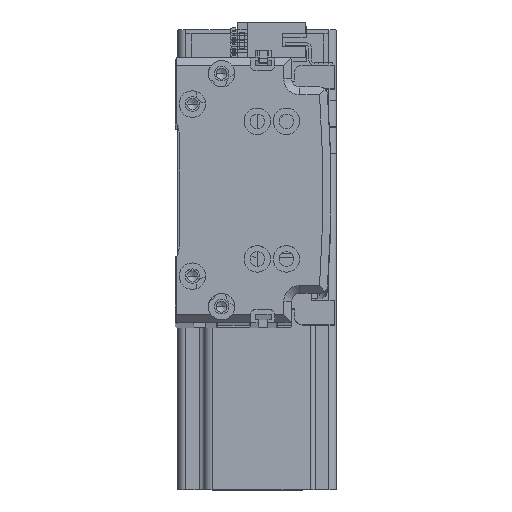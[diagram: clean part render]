
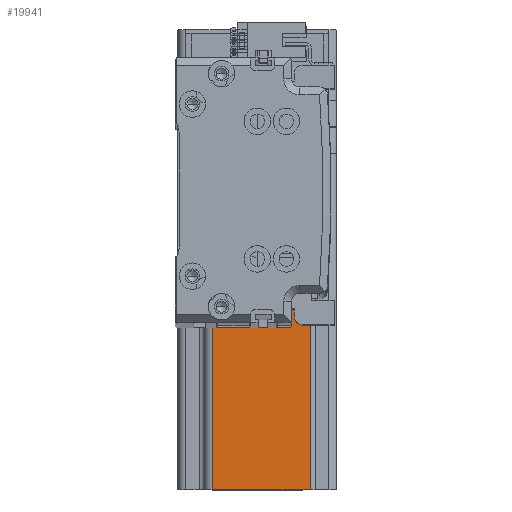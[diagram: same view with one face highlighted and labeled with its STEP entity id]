
A CAD part, top view. The second image highlights one B-rep face of the part: STEP entity #19941.
In plain terms, the highlighted planar face has unit normal (0, 0, 1) as drawn and (-1, 0, 0) by its records, which use the part's own axes.
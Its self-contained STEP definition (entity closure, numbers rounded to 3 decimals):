
#837 = EDGE_CURVE ( 'NONE', #23259, #19442, #915, .T. ) ;
#915 = LINE ( 'NONE', #18325, #44675 ) ;
#4715 = CARTESIAN_POINT ( 'NONE',  ( -30., -30., 137. ) ) ;
#4727 = LINE ( 'NONE', #47836, #16016 ) ;
#6208 = EDGE_CURVE ( 'NONE', #9908, #30294, #50945, .T. ) ;
#6767 = CARTESIAN_POINT ( 'NONE',  ( -30., -17., 137. ) ) ;
#6972 = CARTESIAN_POINT ( 'NONE',  ( -30., -17., 10. ) ) ;
#8973 = DIRECTION ( 'NONE',  ( 0., -1., 0. ) ) ;
#9908 = VERTEX_POINT ( 'NONE', #6972 ) ;
#10089 = EDGE_CURVE ( 'NONE', #19442, #25027, #4727, .T. ) ;
#11058 = CARTESIAN_POINT ( 'NONE',  ( -30., 20., 10. ) ) ;
#11393 = CARTESIAN_POINT ( 'NONE',  ( -30., 30., 10. ) ) ;
#13190 = ORIENTED_EDGE ( 'NONE', *, *, #6208, .T. ) ;
#14282 = DIRECTION ( 'NONE',  ( 0., -1., 0. ) ) ;
#14462 = ORIENTED_EDGE ( 'NONE', *, *, #48327, .T. ) ;
#15400 = CARTESIAN_POINT ( 'NONE',  ( -30., -30., 10. ) ) ;
#16016 = VECTOR ( 'NONE', #26739, 1000. ) ;
#17166 = VECTOR ( 'NONE', #49700, 1000. ) ;
#18325 = CARTESIAN_POINT ( 'NONE',  ( -30., -30., 0. ) ) ;
#18664 = ORIENTED_EDGE ( 'NONE', *, *, #47592, .F. ) ;
#18792 = CARTESIAN_POINT ( 'NONE',  ( -30., -30., 137. ) ) ;
#18849 = CARTESIAN_POINT ( 'NONE',  ( -30., -27., 0. ) ) ;
#19442 = VERTEX_POINT ( 'NONE', #18849 ) ;
#19929 = LINE ( 'NONE', #38473, #43803 ) ;
#19941 = ADVANCED_FACE ( 'NONE', ( #33472 ), #26970, .F. ) ;
#20755 = LINE ( 'NONE', #11393, #32021 ) ;
#21543 = EDGE_LOOP ( 'NONE', ( #36769, #13190, #18664, #32565, #50437, #14462, #53109, #42073 ) ) ;
#23045 = DIRECTION ( 'NONE',  ( 0., 0., -1. ) ) ;
#23259 = VERTEX_POINT ( 'NONE', #51975 ) ;
#23363 = VERTEX_POINT ( 'NONE', #48309 ) ;
#25027 = VERTEX_POINT ( 'NONE', #51329 ) ;
#26141 = LINE ( 'NONE', #4715, #47320 ) ;
#26739 = DIRECTION ( 'NONE',  ( 0., 0., 1. ) ) ;
#26970 = PLANE ( 'NONE',  #53493 ) ;
#28403 = CARTESIAN_POINT ( 'NONE',  ( -30., 27., 10. ) ) ;
#28752 = CARTESIAN_POINT ( 'NONE',  ( -30., -17., 137. ) ) ;
#30294 = VERTEX_POINT ( 'NONE', #6767 ) ;
#32021 = VECTOR ( 'NONE', #53822, 1000. ) ;
#32420 = DIRECTION ( 'NONE',  ( 0., 0., -1. ) ) ;
#32565 = ORIENTED_EDGE ( 'NONE', *, *, #36095, .F. ) ;
#33472 = FACE_OUTER_BOUND ( 'NONE', #21543, .T. ) ;
#34681 = VERTEX_POINT ( 'NONE', #28403 ) ;
#36095 = EDGE_CURVE ( 'NONE', #44157, #23363, #19929, .T. ) ;
#36265 = VECTOR ( 'NONE', #45197, 1000. ) ;
#36769 = ORIENTED_EDGE ( 'NONE', *, *, #38750, .F. ) ;
#38473 = CARTESIAN_POINT ( 'NONE',  ( -30., 20., 10. ) ) ;
#38750 = EDGE_CURVE ( 'NONE', #9908, #25027, #48860, .T. ) ;
#40757 = EDGE_CURVE ( 'NONE', #44157, #34681, #20755, .T. ) ;
#41935 = VECTOR ( 'NONE', #32420, 1000. ) ;
#42073 = ORIENTED_EDGE ( 'NONE', *, *, #10089, .T. ) ;
#42672 = DIRECTION ( 'NONE',  ( 0., 0., 1. ) ) ;
#43803 = VECTOR ( 'NONE', #42672, 1000. ) ;
#44157 = VERTEX_POINT ( 'NONE', #11058 ) ;
#44675 = VECTOR ( 'NONE', #14282, 1000. ) ;
#45187 = CARTESIAN_POINT ( 'NONE',  ( -30., 27., 137. ) ) ;
#45197 = DIRECTION ( 'NONE',  ( 0., -1., 0. ) ) ;
#47320 = VECTOR ( 'NONE', #8973, 1000. ) ;
#47592 = EDGE_CURVE ( 'NONE', #23363, #30294, #26141, .T. ) ;
#47836 = CARTESIAN_POINT ( 'NONE',  ( -30., -27., 137. ) ) ;
#48309 = CARTESIAN_POINT ( 'NONE',  ( -30., 20., 137. ) ) ;
#48327 = EDGE_CURVE ( 'NONE', #34681, #23259, #54527, .T. ) ;
#48444 = DIRECTION ( 'NONE',  ( 1., 0., 0. ) ) ;
#48860 = LINE ( 'NONE', #15400, #36265 ) ;
#49700 = DIRECTION ( 'NONE',  ( 0., 0., 1. ) ) ;
#50437 = ORIENTED_EDGE ( 'NONE', *, *, #40757, .T. ) ;
#50945 = LINE ( 'NONE', #28752, #17166 ) ;
#51329 = CARTESIAN_POINT ( 'NONE',  ( -30., -27., 10. ) ) ;
#51975 = CARTESIAN_POINT ( 'NONE',  ( -30., 27., 0. ) ) ;
#53109 = ORIENTED_EDGE ( 'NONE', *, *, #837, .T. ) ;
#53493 = AXIS2_PLACEMENT_3D ( 'NONE', #18792, #48444, #23045 ) ;
#53822 = DIRECTION ( 'NONE',  ( 0., 1., 0. ) ) ;
#54527 = LINE ( 'NONE', #45187, #41935 ) ;
